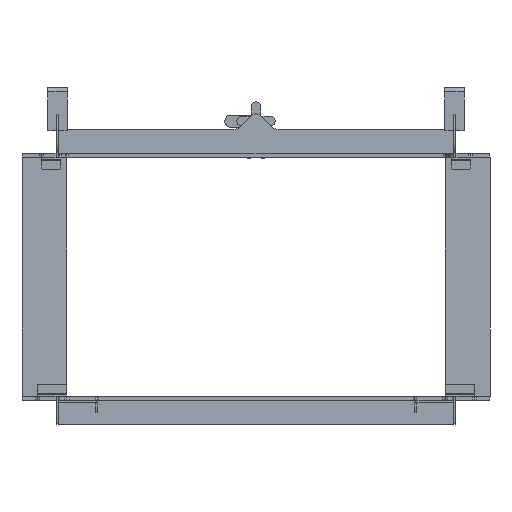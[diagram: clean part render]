
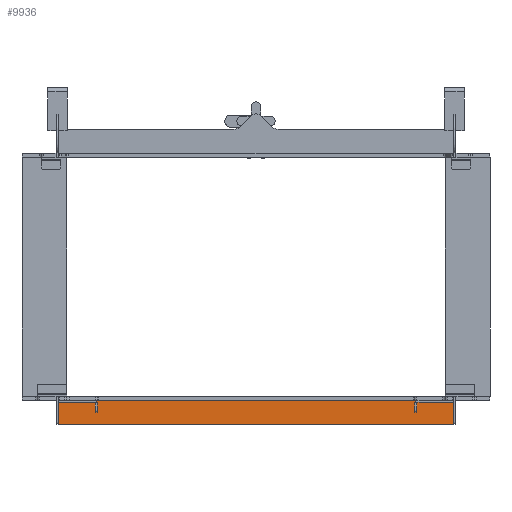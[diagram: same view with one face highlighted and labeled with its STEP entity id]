
A CAD part, front view. The second image highlights one B-rep face of the part: STEP entity #9936.
In plain terms, the highlighted planar face has unit normal (0, -1, 0).
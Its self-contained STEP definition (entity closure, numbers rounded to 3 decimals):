
#680=FACE_OUTER_BOUND('',#1214,.T.);
#1214=EDGE_LOOP('',(#8346,#8347,#8348,#8349,#8350,#8351,#8352,#8353,#8354,
#8355,#8356,#8357,#8358,#8359));
#2002=LINE('',#15921,#2972);
#2139=LINE('',#16321,#3109);
#2140=LINE('',#16323,#3110);
#2141=LINE('',#16327,#3111);
#2142=LINE('',#16330,#3112);
#2143=LINE('',#16331,#3113);
#2144=LINE('',#16335,#3114);
#2145=LINE('',#16336,#3115);
#2146=LINE('',#16338,#3116);
#2147=LINE('',#16339,#3117);
#2972=VECTOR('',#12968,10.);
#3109=VECTOR('',#13359,10.);
#3110=VECTOR('',#13360,10.);
#3111=VECTOR('',#13363,10.);
#3112=VECTOR('',#13366,10.);
#3113=VECTOR('',#13367,10.);
#3114=VECTOR('',#13370,10.);
#3115=VECTOR('',#13371,10.);
#3116=VECTOR('',#13372,10.);
#3117=VECTOR('',#13373,10.);
#3656=CIRCLE('',#10849,3.);
#3657=CIRCLE('',#10850,2.);
#3658=CIRCLE('',#10851,2.);
#3659=CIRCLE('',#10852,3.);
#4381=VERTEX_POINT('',#15918);
#4382=VERTEX_POINT('',#15920);
#4479=VERTEX_POINT('',#16249);
#4480=VERTEX_POINT('',#16251);
#4508=VERTEX_POINT('',#16317);
#4509=VERTEX_POINT('',#16318);
#4510=VERTEX_POINT('',#16320);
#4511=VERTEX_POINT('',#16322);
#4512=VERTEX_POINT('',#16324);
#4513=VERTEX_POINT('',#16326);
#4514=VERTEX_POINT('',#16328);
#4515=VERTEX_POINT('',#16332);
#4516=VERTEX_POINT('',#16334);
#4517=VERTEX_POINT('',#16337);
#5619=EDGE_CURVE('',#4381,#4382,#2002,.T.);
#5816=EDGE_CURVE('',#4508,#4509,#3656,.T.);
#5817=EDGE_CURVE('',#4509,#4510,#2139,.T.);
#5818=EDGE_CURVE('',#4511,#4510,#2140,.T.);
#5819=EDGE_CURVE('',#4512,#4511,#3657,.T.);
#5820=EDGE_CURVE('',#4513,#4512,#2141,.T.);
#5821=EDGE_CURVE('',#4514,#4513,#3658,.T.);
#5822=EDGE_CURVE('',#4480,#4514,#2142,.T.);
#5823=EDGE_CURVE('',#4479,#4480,#2143,.T.);
#5824=EDGE_CURVE('',#4515,#4479,#3659,.T.);
#5825=EDGE_CURVE('',#4516,#4515,#2144,.T.);
#5826=EDGE_CURVE('',#4516,#4382,#2145,.T.);
#5827=EDGE_CURVE('',#4381,#4517,#2146,.T.);
#5828=EDGE_CURVE('',#4517,#4508,#2147,.T.);
#8346=ORIENTED_EDGE('',*,*,#5816,.T.);
#8347=ORIENTED_EDGE('',*,*,#5817,.T.);
#8348=ORIENTED_EDGE('',*,*,#5818,.F.);
#8349=ORIENTED_EDGE('',*,*,#5819,.F.);
#8350=ORIENTED_EDGE('',*,*,#5820,.F.);
#8351=ORIENTED_EDGE('',*,*,#5821,.F.);
#8352=ORIENTED_EDGE('',*,*,#5822,.F.);
#8353=ORIENTED_EDGE('',*,*,#5823,.F.);
#8354=ORIENTED_EDGE('',*,*,#5824,.F.);
#8355=ORIENTED_EDGE('',*,*,#5825,.F.);
#8356=ORIENTED_EDGE('',*,*,#5826,.T.);
#8357=ORIENTED_EDGE('',*,*,#5619,.F.);
#8358=ORIENTED_EDGE('',*,*,#5827,.T.);
#8359=ORIENTED_EDGE('',*,*,#5828,.T.);
#9231=PLANE('',#10848);
#9936=ADVANCED_FACE('',(#680),#9231,.T.);
#10848=AXIS2_PLACEMENT_3D('',#16316,#13355,#13356);
#10849=AXIS2_PLACEMENT_3D('',#16319,#13357,#13358);
#10850=AXIS2_PLACEMENT_3D('',#16325,#13361,#13362);
#10851=AXIS2_PLACEMENT_3D('',#16329,#13364,#13365);
#10852=AXIS2_PLACEMENT_3D('',#16333,#13368,#13369);
#12968=DIRECTION('',(1.,0.,0.));
#13355=DIRECTION('center_axis',(0.,-1.,0.));
#13356=DIRECTION('ref_axis',(-1.,0.,0.));
#13357=DIRECTION('center_axis',(0.,-1.,0.));
#13358=DIRECTION('ref_axis',(0.,0.,
1.));
#13359=DIRECTION('',(0.,0.,-1.));
#13360=DIRECTION('',(0.,0.,1.));
#13361=DIRECTION('center_axis',(0.,1.,0.));
#13362=DIRECTION('ref_axis',(-0.707,0.,-0.707));
#13363=DIRECTION('',(-1.,0.,0.));
#13364=DIRECTION('center_axis',(0.,1.,0.));
#13365=DIRECTION('ref_axis',(0.707,0.,-0.707));
#13366=DIRECTION('',(0.,0.,-1.));
#13367=DIRECTION('',(0.,0.,-1.));
#13368=DIRECTION('center_axis',(0.,1.,0.));
#13369=DIRECTION('ref_axis',(0.,0.,
1.));
#13370=DIRECTION('',(1.,0.,0.));
#13371=DIRECTION('',(0.,0.,1.));
#13372=DIRECTION('',(0.,0.,-1.));
#13373=DIRECTION('',(-1.,0.,0.));
#15918=CARTESIAN_POINT('',(-446.672,-221.802,-202.633));
#15920=CARTESIAN_POINT('',(365.577,-221.802,-202.633));
#15921=CARTESIAN_POINT('',(370.952,-221.802,-202.633));
#16249=CARTESIAN_POINT('',(370.952,-221.802,-209.633));
#16251=CARTESIAN_POINT('',(370.952,-221.802,-249.633));
#16316=CARTESIAN_POINT('Origin',(-40.548,-221.802,-227.633));
#16317=CARTESIAN_POINT('',(-449.048,-221.802,-206.633));
#16318=CARTESIAN_POINT('',(-452.048,-221.802,-209.633));
#16319=CARTESIAN_POINT('Origin',(-449.048,-221.802,-209.633));
#16320=CARTESIAN_POINT('',(-452.048,-221.802,-249.633));
#16321=CARTESIAN_POINT('',(-452.048,-221.802,-106.031));
#16322=CARTESIAN_POINT('',(-452.048,-221.802,-250.633));
#16323=CARTESIAN_POINT('',(-452.048,-221.802,-202.633));
#16324=CARTESIAN_POINT('',(-450.048,-221.802,-252.633));
#16325=CARTESIAN_POINT('Origin',(-450.048,-221.802,-250.633));
#16326=CARTESIAN_POINT('',(368.952,-221.802,-252.633));
#16327=CARTESIAN_POINT('',(-452.048,-221.802,-252.633));
#16328=CARTESIAN_POINT('',(370.952,-221.802,-250.633));
#16329=CARTESIAN_POINT('Origin',(368.952,-221.802,-250.633));
#16330=CARTESIAN_POINT('',(370.952,-221.802,-252.633));
#16331=CARTESIAN_POINT('',(370.952,-221.802,-209.633));
#16332=CARTESIAN_POINT('',(367.952,-221.802,-206.633));
#16333=CARTESIAN_POINT('Origin',(367.952,-221.802,-209.633));
#16334=CARTESIAN_POINT('',(365.577,-221.802,-206.633));
#16335=CARTESIAN_POINT('',(375.254,-221.802,-206.633));
#16336=CARTESIAN_POINT('',(365.577,-221.802,-202.633));
#16337=CARTESIAN_POINT('',(-446.672,-221.802,-206.633));
#16338=CARTESIAN_POINT('',(-446.672,-221.802,-206.633));
#16339=CARTESIAN_POINT('',(-352.746,-221.802,-206.633));
